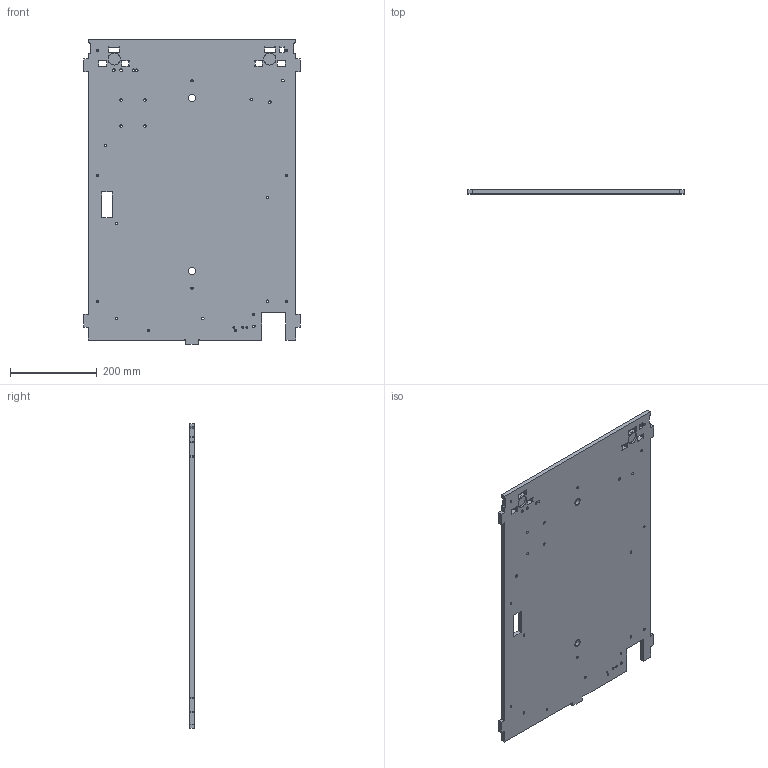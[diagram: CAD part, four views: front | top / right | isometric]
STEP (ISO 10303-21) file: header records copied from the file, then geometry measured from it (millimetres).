
FILE_DESCRIPTION (( 'STEP AP203' ), '1' );
FILE_NAME ('庋.803-5-24.0.0.1.STEP', '2021-03-06T17:28:59', ( '' ), ( '' ), 'SwSTEP 2.0', 'SolidWorks 2016', '' );
FILE_SCHEMA (( 'CONFIG_CONTROL_DESIGN' ));
Length unit declared in the file: millimetre
Products named in the file (1): 庋.803-5-24.0.0.1
Bounding box: 500 x 10 x 705 mm (x, y, z)
Volume: 3264315.1 mm3; surface area: 693499.5 mm2
Topology: 1 solids, 1 shells, 322 faces, 898 edges, 580 vertices
Faces by surface type: cylinder 194, plane 72, cone 56
Entity records: 10723 total; most frequent: DIRECTION 1988, CARTESIAN_POINT 1801, ORIENTED_EDGE 1796, EDGE_CURVE 898, AXIS2_PLACEMENT_3D 767, VERTEX_POINT 580, LINE 454, VECTOR 454
